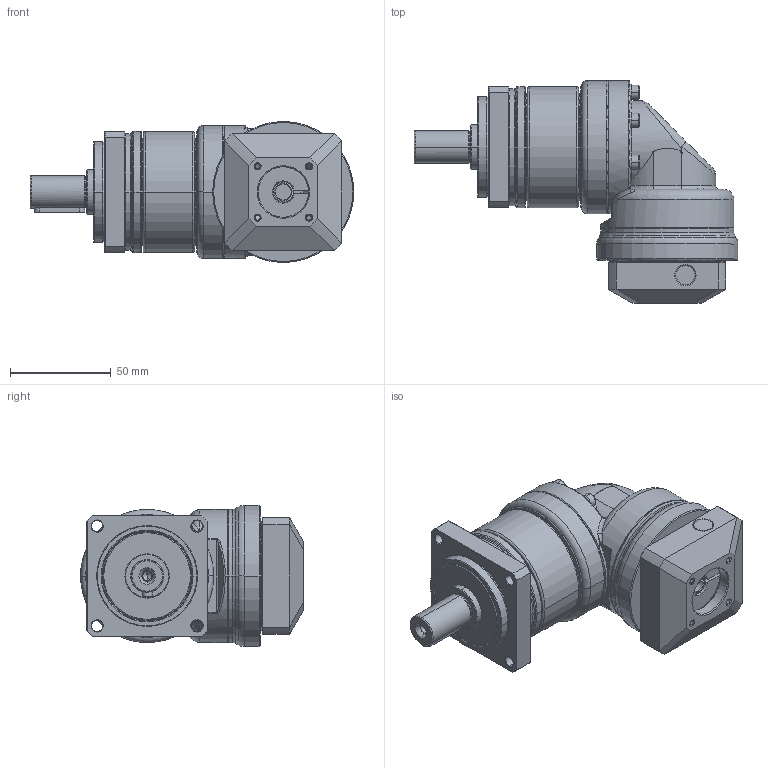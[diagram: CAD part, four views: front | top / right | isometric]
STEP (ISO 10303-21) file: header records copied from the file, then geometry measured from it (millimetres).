
FILE_DESCRIPTION((''),'2;1');
FILE_NAME('PA2R-060_1ST_8-P0411100101_ASM','2016-05-12T',('d01943'),(''),'PRO/ENGINEER BY PARAMETRIC TECHNOLOGY CORPORATION, 2008410','PRO/ENGINEER BY PARAMETRIC TECHNOLOGY CORPORATION, 2008410','');
FILE_SCHEMA(('CONFIG_CONTROL_DESIGN'));
Length unit declared in the file: millimetre
Products named in the file (12): P1327210001; P0250200001; P0350200001; P1349200001; P1017200001; P0713200001; P0503100005; P1350200001; P0411100101; P1702300001; 2111B104020; PA2R-060_1ST_8-P0411100101_ASM
Assembly tree (16 placements, depth 2):
  PA2R-060_1ST_8-P0411100101_ASM
    P1327210001
    P0250200001
    P0350200001
    P1349200001
    P1017200001
    P0713200001
    P0503100005
    P1350200001
    P0411100101
    P1702300001
    2111B104020  x6
Bounding box: 160.5 x 110.5 x 70 mm (x, y, z)
Volume: 327096.5 mm3; surface area: 105150.7 mm2
Topology: 16 solids, 16 shells, 810 faces, 1790 edges, 1039 vertices
Faces by surface type: cylinder 246, cone 228, plane 202, torus 102, bspline 32
Entity records: 23949 total; most frequent: CARTESIAN_POINT 9342, DIRECTION 3229, ORIENTED_EDGE 2844, EDGE_CURVE 1422, AXIS2_PLACEMENT_3D 1362, VERTEX_POINT 839, EDGE_LOOP 731, CIRCLE 721
